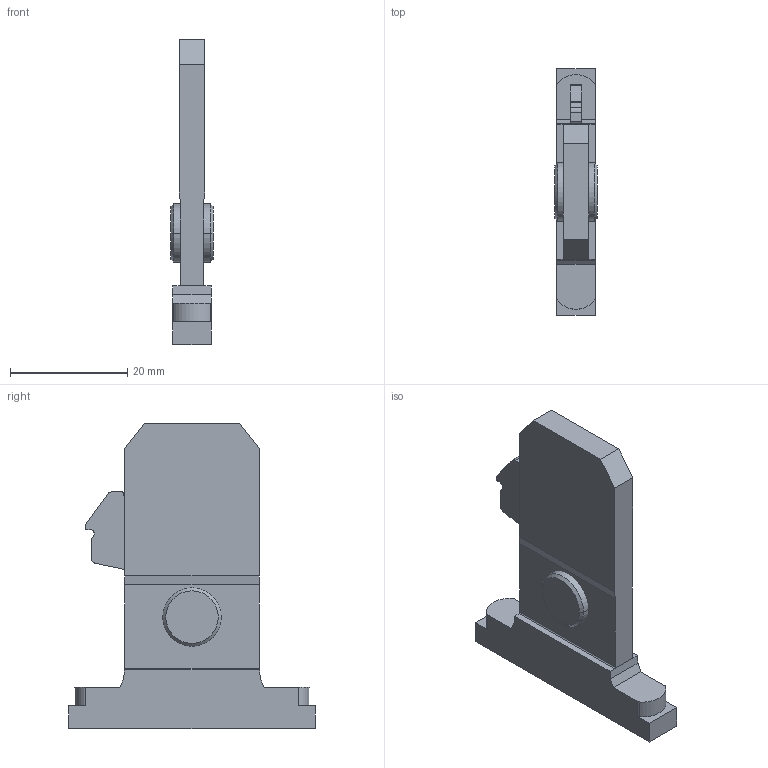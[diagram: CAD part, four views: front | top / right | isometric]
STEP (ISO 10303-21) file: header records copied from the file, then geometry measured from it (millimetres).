
FILE_DESCRIPTION (( 'STEP AP214' ), '1' );
FILE_NAME ('Frontanbindung.STEP', '2014-07-09T08:58:50', ( '' ), ( '' ), 'SwSTEP 2.0', 'SolidWorks 2013', '' );
FILE_SCHEMA (( 'AUTOMOTIVE_DESIGN' ));
Length unit declared in the file: millimetre
Products named in the file (1): Frontanbindung
Bounding box: 7.3 x 42 x 52 mm (x, y, z)
Volume: 7082 mm3; surface area: 4194.5 mm2
Topology: 3 solids, 3 shells, 64 faces, 166 edges, 108 vertices
Faces by surface type: plane 42, cylinder 18, cone 4
Entity records: 1998 total; most frequent: CARTESIAN_POINT 339, DIRECTION 336, ORIENTED_EDGE 332, EDGE_CURVE 166, VECTOR 126, LINE 126, VERTEX_POINT 108, AXIS2_PLACEMENT_3D 105
